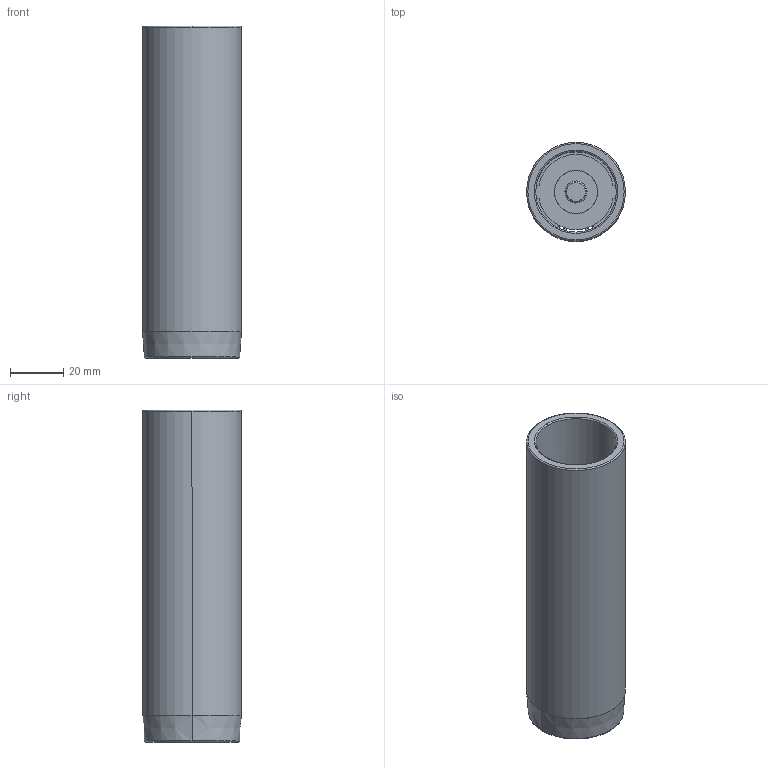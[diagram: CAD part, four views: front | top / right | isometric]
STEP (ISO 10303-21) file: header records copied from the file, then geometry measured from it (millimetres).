
FILE_DESCRIPTION((''),'2;1');
FILE_NAME('C12_030_125.stp','2009-01-28T09:47:30',(''),(''),'Mechanical Desktop 2009','Mechanical Desktop 2009',', , ');
FILE_SCHEMA(('CONFIG_CONTROL_DESIGN'));
Length unit declared in the file: millimetre
Products named in the file (2): Product; blmdl1
Assembly tree (1 placements, depth 2):
  Product
    blmdl1
Bounding box: 37.25 x 37.25 x 125 mm (x, y, z)
Volume: 48044.6 mm3; surface area: 31595.6 mm2
Topology: 5 solids, 5 shells, 79 faces, 200 edges, 134 vertices
Faces by surface type: cylinder 34, plane 29, torus 10, cone 6
Entity records: 2585 total; most frequent: DIRECTION 480, CARTESIAN_POINT 435, ORIENTED_EDGE 400, AXIS2_PLACEMENT_3D 203, EDGE_CURVE 200, VERTEX_POINT 134, CIRCLE 122, EDGE_LOOP 92
